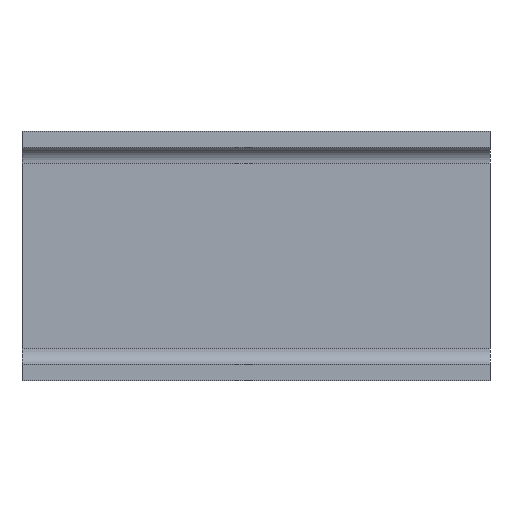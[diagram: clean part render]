
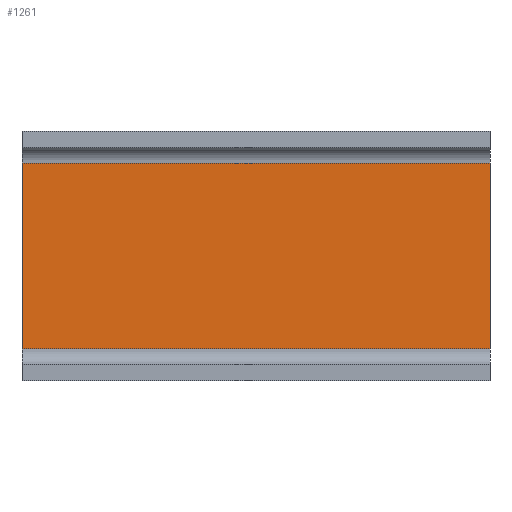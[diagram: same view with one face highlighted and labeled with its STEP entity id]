
A CAD part, left-side view. The second image highlights one B-rep face of the part: STEP entity #1261.
In plain terms, the highlighted planar face has unit normal (-1, 0, 0).
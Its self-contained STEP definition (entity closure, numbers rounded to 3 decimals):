
#45 = VERTEX_POINT ( 'NONE', #914 ) ;
#89 = ORIENTED_EDGE ( 'NONE', *, *, #1974, .F. ) ;
#99 = LINE ( 'NONE', #2269, #634 ) ;
#186 = DIRECTION ( 'NONE',  ( 0., 1., 0. ) ) ;
#286 = LINE ( 'NONE', #1545, #1496 ) ;
#365 = VERTEX_POINT ( 'NONE', #699 ) ;
#634 = VECTOR ( 'NONE', #2527, 1000. ) ;
#699 = CARTESIAN_POINT ( 'NONE',  ( -1.9, 150., -29.8 ) ) ;
#744 = DIRECTION ( 'NONE',  ( -1., 0., 0. ) ) ;
#914 = CARTESIAN_POINT ( 'NONE',  ( -1.9, 0., -29.8 ) ) ;
#956 = DIRECTION ( 'NONE',  ( 0., 0., -1. ) ) ;
#985 = EDGE_CURVE ( 'NONE', #1421, #365, #1561, .T. ) ;
#1002 = EDGE_CURVE ( 'NONE', #2034, #1421, #286, .T. ) ;
#1082 = CARTESIAN_POINT ( 'NONE',  ( -1.9, 150., 40. ) ) ;
#1182 = CARTESIAN_POINT ( 'NONE',  ( -1.9, 0., 40. ) ) ;
#1247 = VECTOR ( 'NONE', #956, 1000. ) ;
#1261 = ADVANCED_FACE ( 'NONE', ( #2873 ), #2121, .T. ) ;
#1421 = VERTEX_POINT ( 'NONE', #2626 ) ;
#1425 = CARTESIAN_POINT ( 'NONE',  ( -1.9, 0., 29.8 ) ) ;
#1496 = VECTOR ( 'NONE', #186, 1000. ) ;
#1545 = CARTESIAN_POINT ( 'NONE',  ( -1.9, 150., 29.8 ) ) ;
#1561 = LINE ( 'NONE', #1082, #2734 ) ;
#1925 = LINE ( 'NONE', #1182, #1247 ) ;
#1974 = EDGE_CURVE ( 'NONE', #2034, #45, #1925, .T. ) ;
#2008 = ORIENTED_EDGE ( 'NONE', *, *, #2973, .T. ) ;
#2034 = VERTEX_POINT ( 'NONE', #1425 ) ;
#2121 = PLANE ( 'NONE',  #2980 ) ;
#2212 = EDGE_LOOP ( 'NONE', ( #2285, #2008, #89, #2350 ) ) ;
#2269 = CARTESIAN_POINT ( 'NONE',  ( -1.9, 150., -29.8 ) ) ;
#2285 = ORIENTED_EDGE ( 'NONE', *, *, #985, .T. ) ;
#2342 = DIRECTION ( 'NONE',  ( 0., 0., 1. ) ) ;
#2350 = ORIENTED_EDGE ( 'NONE', *, *, #1002, .T. ) ;
#2527 = DIRECTION ( 'NONE',  ( 0., -1., 0. ) ) ;
#2626 = CARTESIAN_POINT ( 'NONE',  ( -1.9, 150., 29.8 ) ) ;
#2734 = VECTOR ( 'NONE', #2928, 1000. ) ;
#2813 = CARTESIAN_POINT ( 'NONE',  ( -1.9, 150., 40. ) ) ;
#2873 = FACE_OUTER_BOUND ( 'NONE', #2212, .T. ) ;
#2928 = DIRECTION ( 'NONE',  ( 0., 0., -1. ) ) ;
#2973 = EDGE_CURVE ( 'NONE', #365, #45, #99, .T. ) ;
#2980 = AXIS2_PLACEMENT_3D ( 'NONE', #2813, #744, #2342 ) ;
